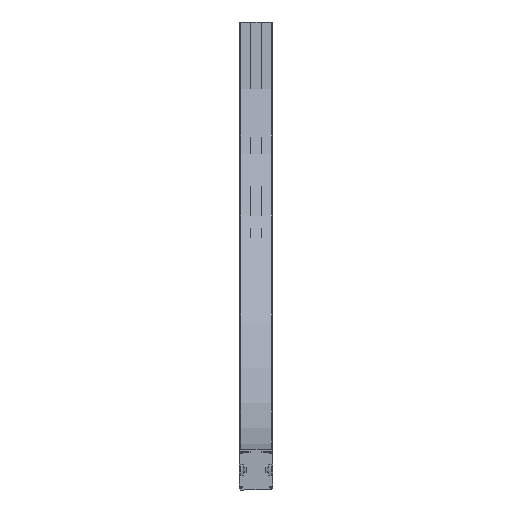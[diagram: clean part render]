
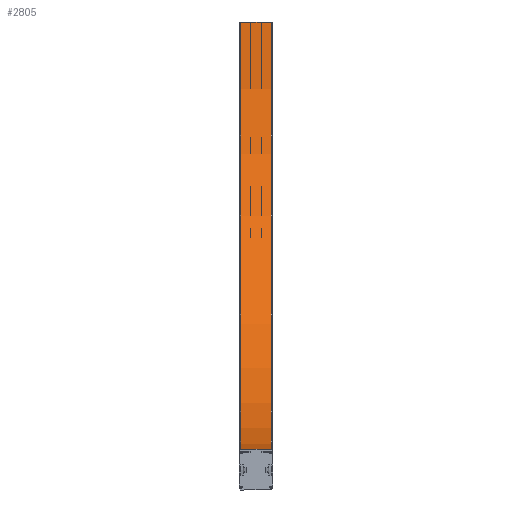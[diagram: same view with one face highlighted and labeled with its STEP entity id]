
A CAD part, front view. The second image highlights one B-rep face of the part: STEP entity #2805.
In plain terms, the highlighted cylindrical face has radius 820 mm (diameter 1640 mm), a partial arc.
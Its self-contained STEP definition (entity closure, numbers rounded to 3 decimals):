
#92=CYLINDRICAL_SURFACE('',#3101,820.);
#315=CIRCLE('',#3100,820.);
#316=CIRCLE('',#3102,820.);
#474=FACE_OUTER_BOUND('',#628,.T.);
#628=EDGE_LOOP('',(#2299,#2300,#2301,#2302));
#821=LINE('',#9361,#1027);
#822=LINE('',#9363,#1028);
#1027=VECTOR('',#3830,10.);
#1028=VECTOR('',#3831,10.);
#1299=VERTEX_POINT('',#9354);
#1300=VERTEX_POINT('',#9356);
#1301=VERTEX_POINT('',#9360);
#1302=VERTEX_POINT('',#9362);
#1698=EDGE_CURVE('',#1299,#1300,#315,.T.);
#1699=EDGE_CURVE('',#1301,#1299,#821,.T.);
#1700=EDGE_CURVE('',#1302,#1300,#822,.T.);
#1701=EDGE_CURVE('',#1301,#1302,#316,.T.);
#2299=ORIENTED_EDGE('',*,*,#1699,.T.);
#2300=ORIENTED_EDGE('',*,*,#1698,.T.);
#2301=ORIENTED_EDGE('',*,*,#1700,.F.);
#2302=ORIENTED_EDGE('',*,*,#1701,.F.);
#2805=ADVANCED_FACE('',(#474),#92,.F.);
#3100=AXIS2_PLACEMENT_3D('',#9358,#3826,#3827);
#3101=AXIS2_PLACEMENT_3D('',#9359,#3828,#3829);
#3102=AXIS2_PLACEMENT_3D('',#9364,#3832,#3833);
#3826=DIRECTION('center_axis',(1.,0.,0.));
#3827=DIRECTION('ref_axis',(0.,0.,-1.));
#3828=DIRECTION('center_axis',(1.,0.,0.));
#3829=DIRECTION('ref_axis',(0.,0.,-1.));
#3830=DIRECTION('',(1.,0.,0.));
#3831=DIRECTION('',(1.,0.,0.));
#3832=DIRECTION('center_axis',(1.,0.,0.));
#3833=DIRECTION('ref_axis',(0.,0.,-1.));
#9354=CARTESIAN_POINT('',(29.,0.,40.));
#9356=CARTESIAN_POINT('',(29.,820.,860.));
#9358=CARTESIAN_POINT('Origin',(29.,0.,860.));
#9359=CARTESIAN_POINT('Origin',(-14.5,0.,860.));
#9360=CARTESIAN_POINT('',(-29.,0.,40.));
#9361=CARTESIAN_POINT('',(-29.,0.,40.));
#9362=CARTESIAN_POINT('',(-29.,820.,860.));
#9363=CARTESIAN_POINT('',(-29.,820.,860.));
#9364=CARTESIAN_POINT('Origin',(-29.,0.,860.));
